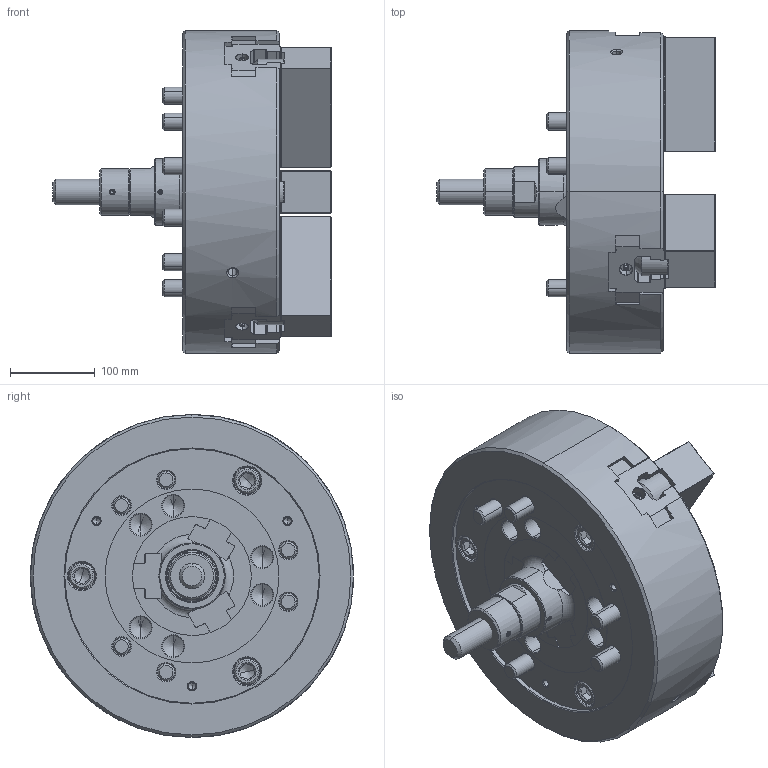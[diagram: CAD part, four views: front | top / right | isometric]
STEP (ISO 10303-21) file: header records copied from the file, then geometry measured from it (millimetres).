
FILE_DESCRIPTION (( 'STEP AP214' ), '1' );
FILE_NAME ('DT1_N-15_OUTSIDE_VIEW_OC.STEP', '2026-03-19T02:22:01', ( '' ), ( '' ), 'SwSTEP 2.0', 'SolidWorks 2022', '' );
FILE_SCHEMA (( 'AUTOMOTIVE_DESIGN' ));
Length unit declared in the file: millimetre
Products named in the file (11): DT1_N-15_OUTSIDE_VIEW_OC; DT1_N-15_SOFTJAW^DT1_N-15; DT1_N-15_BASE^DT1_N-15; DT1_N-15_M20x115^DT1_N-15; DT1_N-15_TNUT^DT1_N-15; Copy of 61P321208^DT1_N-15; DT1_N-15_M20x55^DT1_N-15; DT1_N-15_COVER^DT1_N-15; DT1_N-15_DRAWSCREW^DT1_N-15; DT1_N-15_M6x12^DT1_N-15; DT1_N-15_DN^DT1_N-15
Assembly tree (29 placements, depth 2):
  DT1_N-15_OUTSIDE_VIEW_OC
    DT1_N-15_SOFTJAW^DT1_N-15  x3
    DT1_N-15_TNUT^DT1_N-15  x6
    DT1_N-15_COVER^DT1_N-15
    DT1_N-15_DRAWSCREW^DT1_N-15
    Copy of 61P321208^DT1_N-15
    DT1_N-15_DN^DT1_N-15
    DT1_N-15_BASE^DT1_N-15
    DT1_N-15_M6x12^DT1_N-15  x3
    DT1_N-15_M20x115^DT1_N-15  x6
    DT1_N-15_M20x55^DT1_N-15  x6
Bounding box: 328 x 381 x 381 mm (x, y, z)
Volume: 13616902.2 mm3; surface area: 953247.1 mm2
Topology: 29 solids, 30 shells, 5363 faces, 15286 edges, 10027 vertices
Faces by surface type: plane 3945, cylinder 830, cone 433, bspline 95, torus 54, sphere 6
Entity records: 130541 total; most frequent: CARTESIAN_POINT 33397, ORIENTED_EDGE 21872, DIRECTION 17694, EDGE_CURVE 10936, VECTOR 8378, LINE 8378, VERTEX_POINT 7193, AXIS2_PLACEMENT_3D 4658
